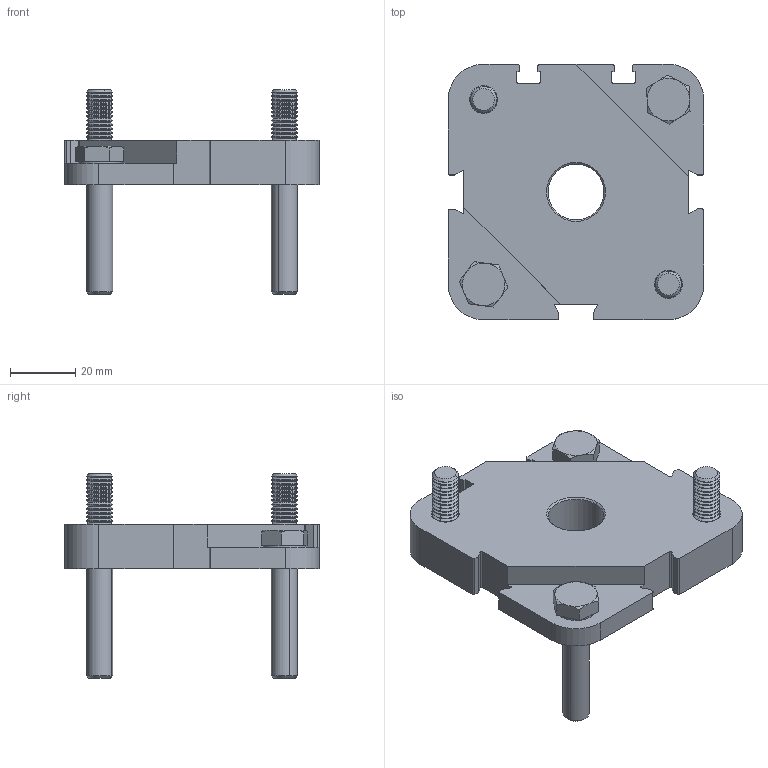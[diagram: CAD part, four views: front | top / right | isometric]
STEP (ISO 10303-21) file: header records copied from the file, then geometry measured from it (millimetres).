
FILE_DESCRIPTION (( 'STEP AP214' ), '1' );
FILE_NAME ('25_085_2.STEP', '2017-01-04T09:16:05', ( '' ), ( '' ), 'SwSTEP 2.0', 'SolidWorks 2016', '' );
FILE_SCHEMA (( 'AUTOMOTIVE_DESIGN' ));
Length unit declared in the file: millimetre
Products named in the file (1): 25_085_2
Bounding box: 78 x 78 x 62.5 mm (x, y, z)
Volume: 70010 mm3; surface area: 22707.1 mm2
Topology: 5 solids, 5 shells, 357 faces, 903 edges, 560 vertices
Faces by surface type: cone 132, cylinder 107, plane 106, torus 12
Entity records: 10925 total; most frequent: DIRECTION 2029, CARTESIAN_POINT 1953, ORIENTED_EDGE 1798, EDGE_CURVE 899, AXIS2_PLACEMENT_3D 796, VERTEX_POINT 560, CIRCLE 438, VECTOR 437
